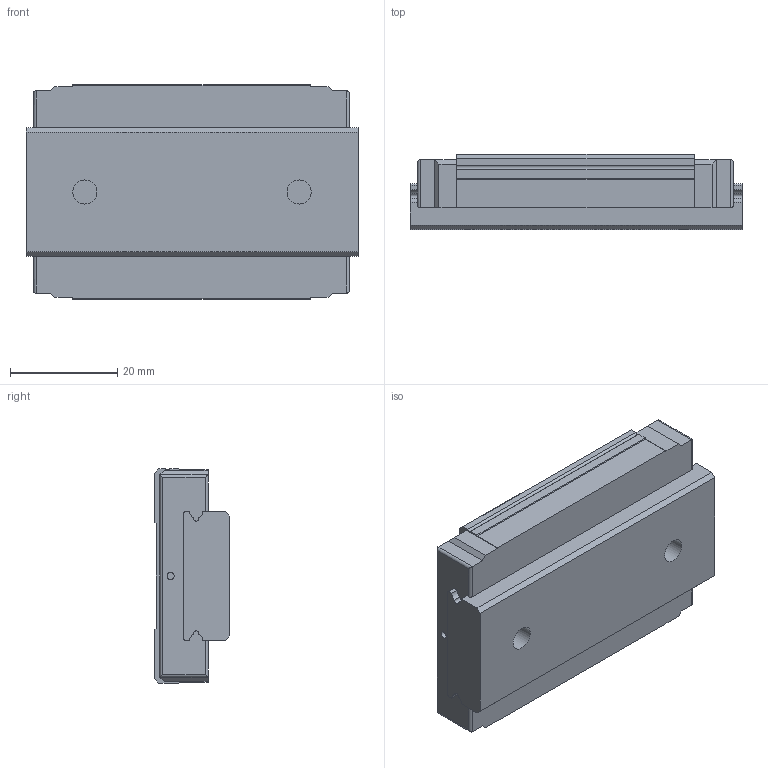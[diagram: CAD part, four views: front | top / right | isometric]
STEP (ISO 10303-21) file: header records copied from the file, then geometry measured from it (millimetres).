
FILE_DESCRIPTION( ( 'STEP AP214' ), '1' );
FILE_NAME( 'G:/品牌/AZI工艺/滑块/GGC/GGC12AKL.stp', '2024-01-19T03:42:20', ( 'License CC BY-ND 4.0' ), ( 'CADENAS' ), ' ', 'PARTsolutions', ' ' );
FILE_SCHEMA( ( 'AUTOMOTIVE_DESIGN { 1 0 10303 214 1 1 1 1 }' ) );
Length unit declared in the file: millimetre
Products named in the file (3): ZLCEW14-62-(30.9-0-0); _ZTCEW14-62; _ZZLCEW14
Assembly tree (2 placements, depth 2):
  ZLCEW14-62-(30.9-0-0)
    _ZTCEW14-62
    _ZZLCEW14
Bounding box: 62 x 14 x 40 mm (x, y, z)
Volume: 27967.6 mm3; surface area: 12177.3 mm2
Topology: 2 solids, 2 shells, 102 faces, 262 edges, 168 vertices
Faces by surface type: plane 57, cylinder 37, cone 8
Full cylindrical faces by diameter (mm): 1.3 x2, 2.459 x4, 4.5 x2, 8 x2
Entity records: 3844 total; most frequent: DIRECTION 520, CARTESIAN_POINT 513, ORIENTED_EDGE 480, EDGE_CURVE 240, AXIS2_PLACEMENT_3D 175, LINE 170, VECTOR 170, VERTEX_POINT 168
